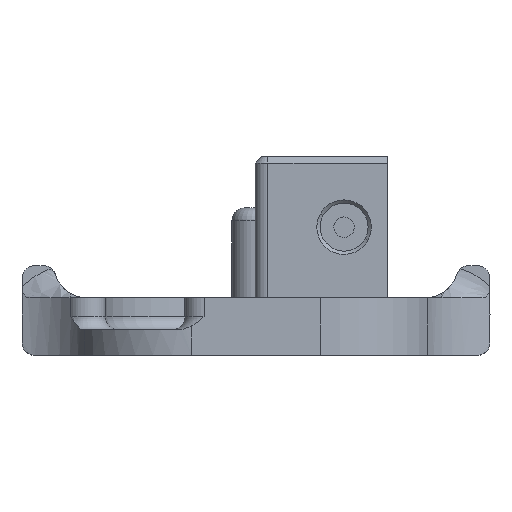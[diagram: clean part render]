
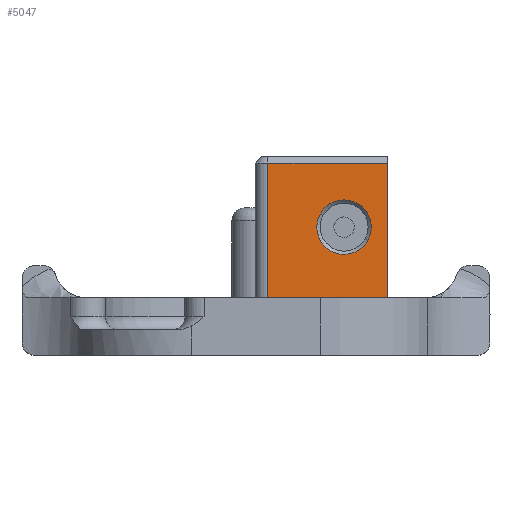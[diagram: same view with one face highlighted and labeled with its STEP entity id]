
A CAD part, front view. The second image highlights one B-rep face of the part: STEP entity #5047.
In plain terms, the highlighted planar face has unit normal (0, -1, 0).
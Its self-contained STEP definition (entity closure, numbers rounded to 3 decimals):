
#2573=AXIS2_PLACEMENT_3D('Circle Axis2P3D',#2571,#2572,$) ;
#2595=AXIS2_PLACEMENT_3D('Circle Axis2P3D',#2593,#2594,$) ;
#5023=AXIS2_PLACEMENT_3D('Plane Axis2P3D',#5020,#5021,#5022) ;
#2505=CARTESIAN_POINT('Vertex',(6.355,-23.9,30.)) ;
#2525=CARTESIAN_POINT('Line Origine',(14.675,-23.9,30.)) ;
#2529=CARTESIAN_POINT('Vertex',(24.995,-23.9,30.)) ;
#2552=CARTESIAN_POINT('Vertex',(14.506,-23.9,22.038)) ;
#2568=CARTESIAN_POINT('Vertex',(21.965,-23.9,17.962)) ;
#2571=CARTESIAN_POINT('Axis2P3D Location',(18.235,-23.9,20.)) ;
#2593=CARTESIAN_POINT('Axis2P3D Location',(18.235,-23.9,20.)) ;
#5005=CARTESIAN_POINT('Vertex',(6.355,-23.9,9.)) ;
#5008=CARTESIAN_POINT('Line Origine',(6.355,-23.9,20.)) ;
#5020=CARTESIAN_POINT('Axis2P3D Location',(24.995,-23.9,9.)) ;
#5025=CARTESIAN_POINT('Line Origine',(15.675,-23.9,9.)) ;
#5029=CARTESIAN_POINT('Vertex',(24.995,-23.9,9.)) ;
#5032=CARTESIAN_POINT('Line Origine',(24.995,-23.9,19.5)) ;
#2526=DIRECTION('Vector Direction',(1.,0.,0.)) ;
#2572=DIRECTION('Axis2P3D Direction',(0.,1.,0.)) ;
#2594=DIRECTION('Axis2P3D Direction',(0.,1.,0.)) ;
#5009=DIRECTION('Vector Direction',(0.,0.,1.)) ;
#5021=DIRECTION('Axis2P3D Direction',(0.,1.,-0.)) ;
#5022=DIRECTION('Axis2P3D XDirection',(-1.,0.,0.)) ;
#5026=DIRECTION('Vector Direction',(-1.,0.,0.)) ;
#5033=DIRECTION('Vector Direction',(0.,0.,1.)) ;
#2527=VECTOR('Line Direction',#2526,1.) ;
#5010=VECTOR('Line Direction',#5009,1.) ;
#5027=VECTOR('Line Direction',#5026,1.) ;
#5034=VECTOR('Line Direction',#5033,1.) ;
#5038=ORIENTED_EDGE('',*,*,#2531,.F.) ;
#5039=ORIENTED_EDGE('',*,*,#5012,.F.) ;
#5040=ORIENTED_EDGE('',*,*,#5031,.T.) ;
#5041=ORIENTED_EDGE('',*,*,#5036,.T.) ;
#5044=ORIENTED_EDGE('',*,*,#2597,.T.) ;
#5045=ORIENTED_EDGE('',*,*,#2575,.T.) ;
#5046=FACE_BOUND('',#5043,.T.) ;
#5047=ADVANCED_FACE('Dadi',(#5042,#5046),#5024,.F.) ;
#2574=CIRCLE('generated circle',#2573,4.25) ;
#2596=CIRCLE('generated circle',#2595,4.25) ;
#2531=EDGE_CURVE('',#2506,#2530,#2528,.T.) ;
#2575=EDGE_CURVE('',#2553,#2569,#2574,.T.) ;
#2597=EDGE_CURVE('',#2569,#2553,#2596,.T.) ;
#5012=EDGE_CURVE('',#5006,#2506,#5011,.T.) ;
#5031=EDGE_CURVE('',#5006,#5030,#5028,.F.) ;
#5036=EDGE_CURVE('',#5030,#2530,#5035,.T.) ;
#5037=EDGE_LOOP('',(#5038,#5039,#5040,#5041)) ;
#5043=EDGE_LOOP('',(#5044,#5045)) ;
#5042=FACE_OUTER_BOUND('',#5037,.T.) ;
#2528=LINE('Line',#2525,#2527) ;
#5011=LINE('Line',#5008,#5010) ;
#5028=LINE('Line',#5025,#5027) ;
#5035=LINE('Line',#5032,#5034) ;
#5024=PLANE('',#5023) ;
#2506=VERTEX_POINT('',#2505) ;
#2530=VERTEX_POINT('',#2529) ;
#2553=VERTEX_POINT('',#2552) ;
#2569=VERTEX_POINT('',#2568) ;
#5006=VERTEX_POINT('',#5005) ;
#5030=VERTEX_POINT('',#5029) ;
